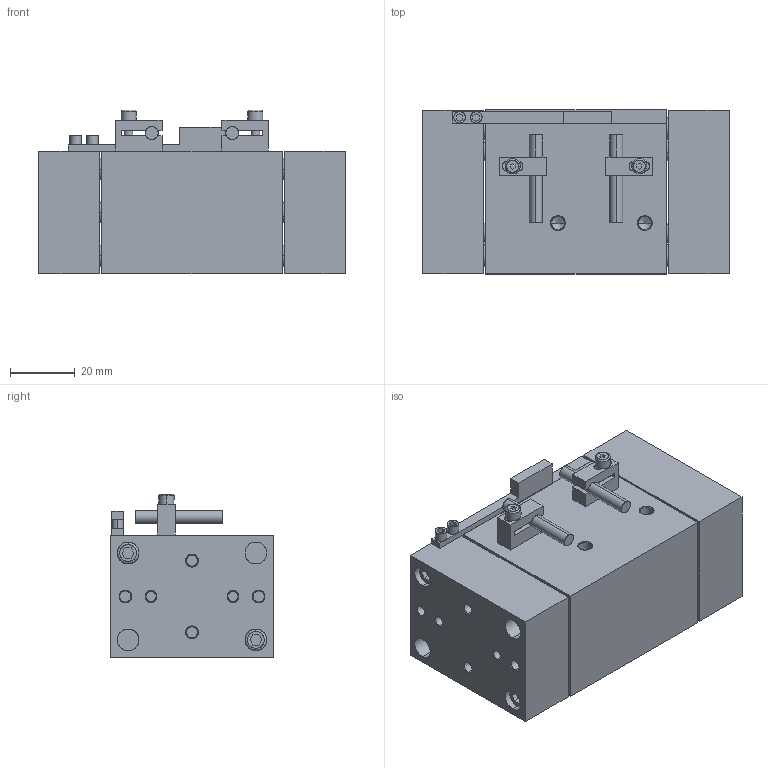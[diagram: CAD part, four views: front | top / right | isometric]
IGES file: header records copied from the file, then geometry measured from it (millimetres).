
Start section: SolidWorks IGES file using analytic representation for surfaces
Global section: file name: C:\Users\jmkuhnes\Pictures\AGW\AGW-375-1\AGW-375-1 CLOSED in IN.IGS; native system: SolidWorks 2013; preprocessor: SolidWorks 2013; author: jmkuhnes; date: 141103.093855; units: inch
Bounding box: 95 x 50.8 x 50.8 mm (x, y, z)
Surface area: 53345.9 mm2 (no closed solid volume)
Topology: 0 solids, 0 shells, 378 faces, 5396 edges, 5376 vertices
Faces by surface type: revolution 202, bspline 176
